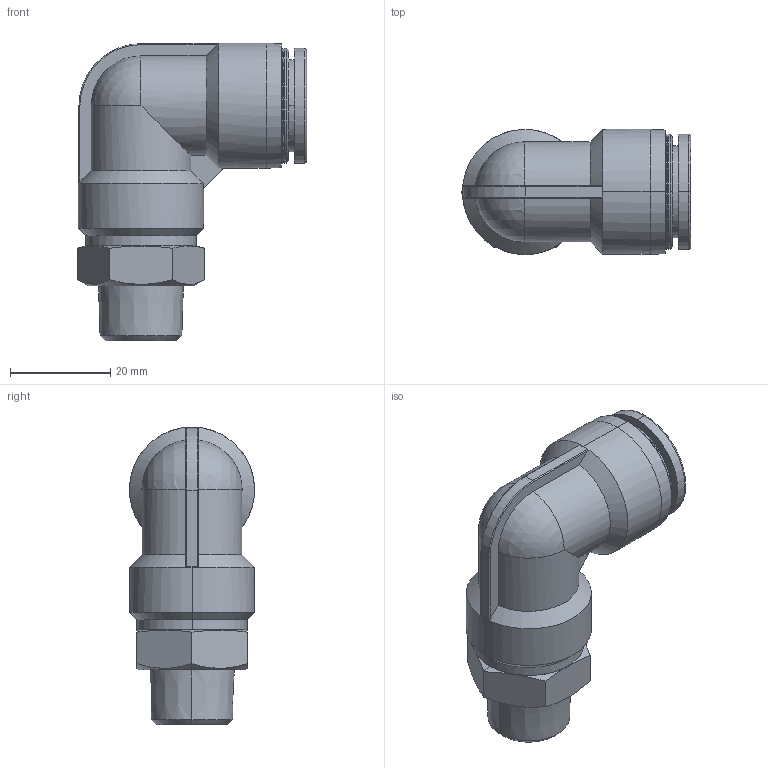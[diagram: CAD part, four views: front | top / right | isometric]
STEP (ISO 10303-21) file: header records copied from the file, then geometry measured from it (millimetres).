
FILE_DESCRIPTION(/* description */ ('AP214 STEP file'),/* implementation_level */ '2;1');
FILE_NAME(/* name */ 'PL16-03_',/* time_stamp */ '2014-11-04T14:01:00+09:00',/* author */ (''),/* organization */ (''),/* preprocessor_version */ '.stp',/* originating_system */ 'UNIGRAPHICS',/* authorisation */ '');
FILE_SCHEMA (('AUTOMOTIVE_DESIGN'));
Length unit declared in the file: millimetre
Products named in the file (1): PL16-03_
Bounding box: 45.8 x 25 x 59.5 mm (x, y, z)
Volume: 24931.9 mm3; surface area: 8164.3 mm2
Topology: 1 solids, 1 shells, 74 faces, 176 edges, 108 vertices
Faces by surface type: cylinder 25, cone 22, plane 21, torus 4, sphere 2
Entity records: 2054 total; most frequent: CARTESIAN_POINT 443, ORIENTED_EDGE 348, EDGE_CURVE 174, STYLED_ITEM 174, AXIS2_PLACEMENT_3D 156, VERTEX_POINT 108, EDGE_LOOP 80, DIRECTION 77
